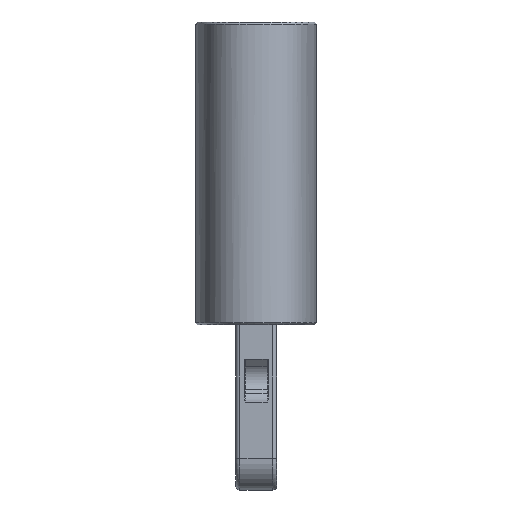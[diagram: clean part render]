
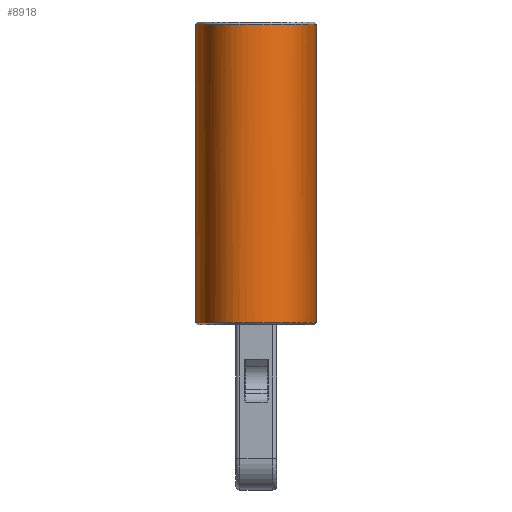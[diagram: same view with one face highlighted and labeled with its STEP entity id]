
A CAD part, front view. The second image highlights one B-rep face of the part: STEP entity #8918.
In plain terms, the highlighted free-form (B-spline) face has degree [3, 1] with [15, 2] control points.
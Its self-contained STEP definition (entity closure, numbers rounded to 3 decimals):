
#44 = CARTESIAN_POINT ( 'NONE',  ( -2.38, -0.724, 11.87 ) ) ;
#59 = ORIENTED_EDGE ( 'NONE', *, *, #7233, .T. ) ;
#115 = CARTESIAN_POINT ( 'NONE',  ( -2.397, -0.142, 11.95 ) ) ;
#219 = CARTESIAN_POINT ( 'NONE',  ( -2.38, -0.724, 0.08 ) ) ;
#276 = CARTESIAN_POINT ( 'NONE',  ( 1.776, -3.169, 11.87 ) ) ;
#510 = CARTESIAN_POINT ( 'NONE',  ( -2.396, -0.202, 0.08 ) ) ;
#979 = DIRECTION ( 'NONE',  ( 0., 0., -1. ) ) ;
#1075 = CARTESIAN_POINT ( 'NONE',  ( 1.287, -3.784, 0.08 ) ) ;
#1218 = CARTESIAN_POINT ( 'NONE',  ( -2.397, -0.142, 11.87 ) ) ;
#1387 = CARTESIAN_POINT ( 'NONE',  ( -2.238, -1.804, 0.08 ) ) ;
#1424 = B_SPLINE_SURFACE_WITH_KNOTS ( 'NONE', 3, 1, ( 
 ( #3668, #13045 ),
 ( #6077, #14220 ),
 ( #7232, #219 ),
 ( #8390, #1387 ),
 ( #9582, #2576 ),
 ( #10756, #3776 ),
 ( #11930, #4939 ),
 ( #13096, #6132 ),
 ( #14268, #7266 ),
 ( #276, #8443 ),
 ( #1432, #9626 ),
 ( #2626, #10808 ),
 ( #3817, #11973 ),
 ( #4988, #13139 ),
 ( #6176, #14312 ) ),
 .UNSPECIFIED., .F., .F., .F.,
 ( 4, 1, 1, 1, 1, 1, 1, 1, 1, 1, 1, 1, 4 ),
 ( 2, 2 ),
 ( 0.5, 0.508, 0.574, 0.654, 0.702, 0.739, 0.774, 0.802, 0.842, 0.881, 0.91, 0.939, 1. ),
 ( 0., 1. ),
 .UNSPECIFIED. ) ;
#1432 = CARTESIAN_POINT ( 'NONE',  ( 2.037, -2.446, 11.87 ) ) ;
#1968 = VERTEX_POINT ( 'NONE', #4476 ) ;
#2267 = CARTESIAN_POINT ( 'NONE',  ( 2.037, -2.446, 0.08 ) ) ;
#2282 = ORIENTED_EDGE ( 'NONE', *, *, #14375, .T. ) ;
#2352 = CARTESIAN_POINT ( 'NONE',  ( 2.201, -1.778, 11.87 ) ) ;
#2517 = B_SPLINE_CURVE_WITH_KNOTS ( 'NONE', 3,
 ( #7582, #510, #12745, #5761, #13925, #6926, #15105, #8079, #1075, #9276, #2267, #10448, #3457, #11616, #4629 ),
 .UNSPECIFIED., .F., .F.,
 ( 4, 1, 1, 1, 1, 1, 1, 1, 1, 1, 1, 1, 4 ),
 ( 0.5, 0.508, 0.574, 0.654, 0.702, 0.739, 0.774, 0.802, 0.842, 0.881, 0.91, 0.939, 1. ),
 .UNSPECIFIED. ) ;
#2576 = CARTESIAN_POINT ( 'NONE',  ( -1.907, -3.191, 0.08 ) ) ;
#2626 = CARTESIAN_POINT ( 'NONE',  ( 2.201, -1.778, 11.87 ) ) ;
#3216 = VERTEX_POINT ( 'NONE', #14747 ) ;
#3457 = CARTESIAN_POINT ( 'NONE',  ( 2.345, -0.946, 0.08 ) ) ;
#3549 = CARTESIAN_POINT ( 'NONE',  ( 1.776, -3.169, 11.87 ) ) ;
#3668 = CARTESIAN_POINT ( 'NONE',  ( -2.397, -0.142, 11.87 ) ) ;
#3776 = CARTESIAN_POINT ( 'NONE',  ( -0.978, -4.015, 0.08 ) ) ;
#3817 = CARTESIAN_POINT ( 'NONE',  ( 2.345, -0.946, 11.87 ) ) ;
#4476 = CARTESIAN_POINT ( 'NONE',  ( -2.397, -0.142, 0.08 ) ) ;
#4544 = VECTOR ( 'NONE', #10560, 1000. ) ;
#4629 = CARTESIAN_POINT ( 'NONE',  ( 2.377, 0.129, 0.08 ) ) ;
#4726 = CARTESIAN_POINT ( 'NONE',  ( 0.603, -4.094, 11.87 ) ) ;
#4939 = CARTESIAN_POINT ( 'NONE',  ( -0.117, -4.167, 0.08 ) ) ;
#4988 = CARTESIAN_POINT ( 'NONE',  ( 2.382, -0.304, 11.87 ) ) ;
#5076 = VERTEX_POINT ( 'NONE', #10594 ) ;
#5467 = EDGE_CURVE ( 'NONE', #3216, #8036, #9151, .T. ) ;
#5761 = CARTESIAN_POINT ( 'NONE',  ( -2.238, -1.804, 0.08 ) ) ;
#5906 = CARTESIAN_POINT ( 'NONE',  ( -0.978, -4.015, 11.87 ) ) ;
#6077 = CARTESIAN_POINT ( 'NONE',  ( -2.396, -0.202, 11.87 ) ) ;
#6081 = VECTOR ( 'NONE', #979, 1000. ) ;
#6132 = CARTESIAN_POINT ( 'NONE',  ( 0.603, -4.094, 0.08 ) ) ;
#6150 = CARTESIAN_POINT ( 'NONE',  ( 2.377, 0.129, 0.08 ) ) ;
#6176 = CARTESIAN_POINT ( 'NONE',  ( 2.377, 0.129, 11.87 ) ) ;
#6290 = B_SPLINE_CURVE_WITH_KNOTS ( 'NONE', 3,
 ( #15197, #13958, #9367, #2352, #10546, #3549, #11705, #4726, #12888, #5906, #14050, #7066, #44, #8222, #1218 ),
 .UNSPECIFIED., .F., .F.,
 ( 4, 1, 1, 1, 1, 1, 1, 1, 1, 1, 1, 1, 4 ),
 ( 0., 0.061, 0.09, 0.119, 0.158, 0.198, 0.226, 0.261, 0.298, 0.346, 0.426, 0.492, 0.5 ),
 .UNSPECIFIED. ) ;
#6926 = CARTESIAN_POINT ( 'NONE',  ( -0.978, -4.015, 0.08 ) ) ;
#7066 = CARTESIAN_POINT ( 'NONE',  ( -2.238, -1.804, 11.87 ) ) ;
#7232 = CARTESIAN_POINT ( 'NONE',  ( -2.38, -0.724, 11.87 ) ) ;
#7233 = EDGE_CURVE ( 'NONE', #3216, #5076, #6290, .T. ) ;
#7266 = CARTESIAN_POINT ( 'NONE',  ( 1.287, -3.784, 0.08 ) ) ;
#7582 = CARTESIAN_POINT ( 'NONE',  ( -2.397, -0.142, 0.08 ) ) ;
#8036 = VERTEX_POINT ( 'NONE', #6150 ) ;
#8079 = CARTESIAN_POINT ( 'NONE',  ( 0.603, -4.094, 0.08 ) ) ;
#8222 = CARTESIAN_POINT ( 'NONE',  ( -2.396, -0.202, 11.87 ) ) ;
#8390 = CARTESIAN_POINT ( 'NONE',  ( -2.238, -1.804, 11.87 ) ) ;
#8443 = CARTESIAN_POINT ( 'NONE',  ( 1.776, -3.169, 0.08 ) ) ;
#8475 = EDGE_LOOP ( 'NONE', ( #59, #2282, #9124, #9274 ) ) ;
#8732 = FACE_OUTER_BOUND ( 'NONE', #8475, .T. ) ;
#8826 = EDGE_CURVE ( 'NONE', #1968, #8036, #2517, .T. ) ;
#8918 = ADVANCED_FACE ( 'NONE', ( #8732 ), #1424, .F. ) ;
#9124 = ORIENTED_EDGE ( 'NONE', *, *, #8826, .T. ) ;
#9151 = LINE ( 'NONE', #14909, #6081 ) ;
#9274 = ORIENTED_EDGE ( 'NONE', *, *, #5467, .F. ) ;
#9276 = CARTESIAN_POINT ( 'NONE',  ( 1.776, -3.169, 0.08 ) ) ;
#9367 = CARTESIAN_POINT ( 'NONE',  ( 2.345, -0.946, 11.87 ) ) ;
#9582 = CARTESIAN_POINT ( 'NONE',  ( -1.907, -3.191, 11.87 ) ) ;
#9626 = CARTESIAN_POINT ( 'NONE',  ( 2.037, -2.446, 0.08 ) ) ;
#10448 = CARTESIAN_POINT ( 'NONE',  ( 2.201, -1.778, 0.08 ) ) ;
#10546 = CARTESIAN_POINT ( 'NONE',  ( 2.037, -2.446, 11.87 ) ) ;
#10560 = DIRECTION ( 'NONE',  ( 0., 0., -1. ) ) ;
#10594 = CARTESIAN_POINT ( 'NONE',  ( -2.397, -0.142, 11.87 ) ) ;
#10756 = CARTESIAN_POINT ( 'NONE',  ( -0.978, -4.015, 11.87 ) ) ;
#10770 = LINE ( 'NONE', #115, #4544 ) ;
#10808 = CARTESIAN_POINT ( 'NONE',  ( 2.201, -1.778, 0.08 ) ) ;
#11616 = CARTESIAN_POINT ( 'NONE',  ( 2.382, -0.304, 0.08 ) ) ;
#11705 = CARTESIAN_POINT ( 'NONE',  ( 1.287, -3.784, 11.87 ) ) ;
#11930 = CARTESIAN_POINT ( 'NONE',  ( -0.117, -4.167, 11.87 ) ) ;
#11973 = CARTESIAN_POINT ( 'NONE',  ( 2.345, -0.946, 0.08 ) ) ;
#12745 = CARTESIAN_POINT ( 'NONE',  ( -2.38, -0.724, 0.08 ) ) ;
#12888 = CARTESIAN_POINT ( 'NONE',  ( -0.117, -4.167, 11.87 ) ) ;
#13045 = CARTESIAN_POINT ( 'NONE',  ( -2.397, -0.142, 0.08 ) ) ;
#13096 = CARTESIAN_POINT ( 'NONE',  ( 0.603, -4.094, 11.87 ) ) ;
#13139 = CARTESIAN_POINT ( 'NONE',  ( 2.382, -0.304, 0.08 ) ) ;
#13925 = CARTESIAN_POINT ( 'NONE',  ( -1.907, -3.191, 0.08 ) ) ;
#13958 = CARTESIAN_POINT ( 'NONE',  ( 2.382, -0.304, 11.87 ) ) ;
#14050 = CARTESIAN_POINT ( 'NONE',  ( -1.907, -3.191, 11.87 ) ) ;
#14220 = CARTESIAN_POINT ( 'NONE',  ( -2.396, -0.202, 0.08 ) ) ;
#14268 = CARTESIAN_POINT ( 'NONE',  ( 1.287, -3.784, 11.87 ) ) ;
#14312 = CARTESIAN_POINT ( 'NONE',  ( 2.377, 0.129, 0.08 ) ) ;
#14375 = EDGE_CURVE ( 'NONE', #5076, #1968, #10770, .T. ) ;
#14747 = CARTESIAN_POINT ( 'NONE',  ( 2.377, 0.129, 11.87 ) ) ;
#14909 = CARTESIAN_POINT ( 'NONE',  ( 2.377, 0.129, 11.95 ) ) ;
#15105 = CARTESIAN_POINT ( 'NONE',  ( -0.117, -4.167, 0.08 ) ) ;
#15197 = CARTESIAN_POINT ( 'NONE',  ( 2.377, 0.129, 11.87 ) ) ;
